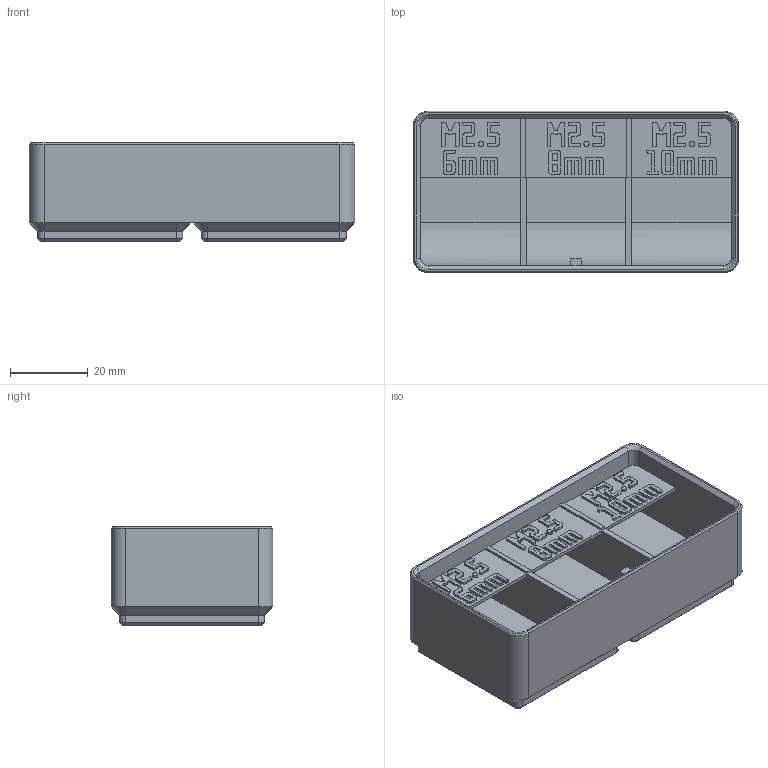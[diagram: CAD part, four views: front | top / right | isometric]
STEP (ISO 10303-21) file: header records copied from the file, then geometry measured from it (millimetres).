
FILE_DESCRIPTION(('Open CASCADE Model'),'2;1');
FILE_NAME('Open CASCADE Shape Model','2026-11-03T16:31:28',('Author'),( 'Open CASCADE'),'Open CASCADE STEP processor 8.0','build123d', 'Unknown');
FILE_SCHEMA(('AUTOMOTIVE_DESIGN { 1 0 10303 214 1 1 1 1 }'));
Products named in the file (1): COMPOUND
Bounding box: 83.5 x 41.5 x 25.4 mm (x, y, z)
Volume: 39271.6 mm3; surface area: 19734.8 mm2
Topology: 1 solids, 1 shells, 2119 faces, 6208 edges, 4118 vertices
Faces by surface type: plane 2076, cone 24, cylinder 19
Entity records: 145606 total; most frequent: CARTESIAN_POINT 29326, DIRECTION 18756, LINE 14382, VECTOR 14382, ORIENTED_EDGE 12416, PCURVE 12416, DEFINITIONAL_REPRESENTATION 12416, EDGE_CURVE 6208
